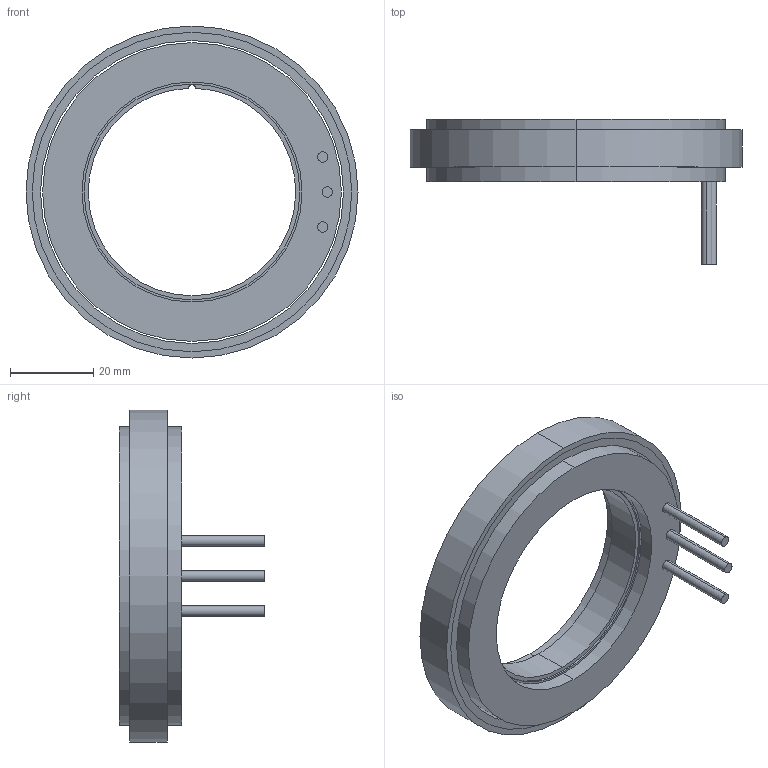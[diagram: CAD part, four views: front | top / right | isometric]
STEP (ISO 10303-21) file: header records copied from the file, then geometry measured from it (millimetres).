
FILE_DESCRIPTION (( 'STEP AP214' ), '1' );
FILE_NAME ('UE8015µç»ú.STEP', '2026-03-04T01:31:07', ( '' ), ( '' ), 'SwSTEP 2.0', 'SolidWorks 2023', '' );
FILE_SCHEMA (( 'AUTOMOTIVE_DESIGN' ));
Length unit declared in the file: millimetre
Products named in the file (1): UE8015电机
Bounding box: 80 x 35 x 80 mm (x, y, z)
Volume: 37859.6 mm3; surface area: 20867.5 mm2
Topology: 3 solids, 3 shells, 40 faces, 81 edges, 54 vertices
Faces by surface type: cylinder 27, plane 13
Entity records: 1132 total; most frequent: DIRECTION 217, CARTESIAN_POINT 176, ORIENTED_EDGE 162, AXIS2_PLACEMENT_3D 95, EDGE_CURVE 81, CIRCLE 54, VERTEX_POINT 54, EDGE_LOOP 53
